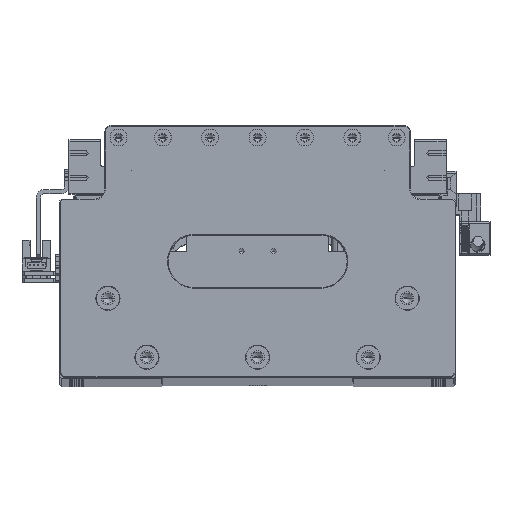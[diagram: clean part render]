
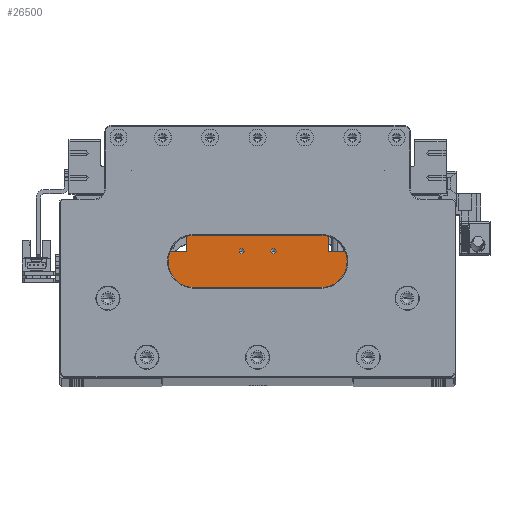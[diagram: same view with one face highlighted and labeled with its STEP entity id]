
A CAD part, top view. The second image highlights one B-rep face of the part: STEP entity #26500.
In plain terms, the highlighted planar face has unit normal (0, 0, 1).
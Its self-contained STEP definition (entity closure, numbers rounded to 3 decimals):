
#824 = AXIS2_PLACEMENT_3D ( 'NONE', #15569, #79194, #24776 ) ;
#1546 = EDGE_CURVE ( 'NONE', #80221, #26105, #6066, .T. ) ;
#2229 = ORIENTED_EDGE ( 'NONE', *, *, #35695, .T. ) ;
#2596 = CARTESIAN_POINT ( 'NONE',  ( -45., 0., 90. ) ) ;
#3475 = CARTESIAN_POINT ( 'NONE',  ( -45., -40., 90. ) ) ;
#3746 = AXIS2_PLACEMENT_3D ( 'NONE', #44631, #108120, #53740 ) ;
#5341 = ORIENTED_EDGE ( 'NONE', *, *, #117103, .T. ) ;
#6066 = LINE ( 'NONE', #12965, #48726 ) ;
#9433 = CARTESIAN_POINT ( 'NONE',  ( 0., -8., 90. ) ) ;
#10754 = LINE ( 'NONE', #3475, #56239 ) ;
#12511 = CARTESIAN_POINT ( 'NONE',  ( -6.25, -8., 90. ) ) ;
#12580 = DIRECTION ( 'NONE',  ( 1., 0., 0. ) ) ;
#12941 = VECTOR ( 'NONE', #22020, 1000. ) ;
#12965 = CARTESIAN_POINT ( 'NONE',  ( -33.5, 0., 90. ) ) ;
#14189 = CARTESIAN_POINT ( 'NONE',  ( 33.5, 0., 90. ) ) ;
#15569 = CARTESIAN_POINT ( 'NONE',  ( 7.5, -8., 90. ) ) ;
#17115 = PLANE ( 'NONE',  #62118 ) ;
#18925 = DIRECTION ( 'NONE',  ( -1., 0., 0. ) ) ;
#20332 = FACE_BOUND ( 'NONE', #37631, .T. ) ;
#20833 = ORIENTED_EDGE ( 'NONE', *, *, #52394, .T. ) ;
#22020 = DIRECTION ( 'NONE',  ( -1., 0., 0. ) ) ;
#23032 = VERTEX_POINT ( 'NONE', #30632 ) ;
#23194 = FACE_OUTER_BOUND ( 'NONE', #95689, .T. ) ;
#24278 = VERTEX_POINT ( 'NONE', #72954 ) ;
#24776 = DIRECTION ( 'NONE',  ( 1., 0., 0. ) ) ;
#26105 = VERTEX_POINT ( 'NONE', #45908 ) ;
#26361 = ORIENTED_EDGE ( 'NONE', *, *, #88788, .T. ) ;
#26500 = ADVANCED_FACE ( 'NONE', ( #23194, #92891, #20332 ), #17115, .T. ) ;
#27139 = ORIENTED_EDGE ( 'NONE', *, *, #57440, .T. ) ;
#30160 = VECTOR ( 'NONE', #48279, 1000. ) ;
#30163 = EDGE_CURVE ( 'NONE', #80478, #81448, #62438, .T. ) ;
#30610 = CARTESIAN_POINT ( 'NONE',  ( -45., -8., 90. ) ) ;
#30632 = CARTESIAN_POINT ( 'NONE',  ( 8.75, -8., 90. ) ) ;
#30961 = LINE ( 'NONE', #9433, #70651 ) ;
#31504 = ORIENTED_EDGE ( 'NONE', *, *, #92966, .T. ) ;
#33352 = VERTEX_POINT ( 'NONE', #56632 ) ;
#34322 = CARTESIAN_POINT ( 'NONE',  ( -7.5, -8., 90. ) ) ;
#35695 = EDGE_CURVE ( 'NONE', #23032, #90229, #104358, .T. ) ;
#36375 = DIRECTION ( 'NONE',  ( 0., 0., -1. ) ) ;
#36690 = ORIENTED_EDGE ( 'NONE', *, *, #55358, .T. ) ;
#37184 = LINE ( 'NONE', #112598, #12941 ) ;
#37631 = EDGE_LOOP ( 'NONE', ( #61186, #60130 ) ) ;
#41636 = VECTOR ( 'NONE', #112253, 1000. ) ;
#41806 = CARTESIAN_POINT ( 'NONE',  ( -33.5, -0.2, 90. ) ) ;
#43464 = DIRECTION ( 'NONE',  ( 1., 0., 0. ) ) ;
#44355 = CARTESIAN_POINT ( 'NONE',  ( 44.8, 0., 90. ) ) ;
#44631 = CARTESIAN_POINT ( 'NONE',  ( 7.5, -8., 90. ) ) ;
#45208 = VECTOR ( 'NONE', #87334, 1000. ) ;
#45805 = DIRECTION ( 'NONE',  ( 0., 0., 1. ) ) ;
#45908 = CARTESIAN_POINT ( 'NONE',  ( -33.5, -8., 90. ) ) ;
#48017 = CARTESIAN_POINT ( 'NONE',  ( 44.8, -8., 90. ) ) ;
#48279 = DIRECTION ( 'NONE',  ( 0., -1., 0. ) ) ;
#48726 = VECTOR ( 'NONE', #76576, 1000. ) ;
#51640 = VERTEX_POINT ( 'NONE', #79828 ) ;
#52394 = EDGE_CURVE ( 'NONE', #24278, #88127, #58470, .T. ) ;
#53493 = DIRECTION ( 'NONE',  ( 0., 1., 0. ) ) ;
#53740 = DIRECTION ( 'NONE',  ( 1., 0., 0. ) ) ;
#54354 = AXIS2_PLACEMENT_3D ( 'NONE', #90743, #36375, #99838 ) ;
#55358 = EDGE_CURVE ( 'NONE', #26105, #56880, #30961, .T. ) ;
#56239 = VECTOR ( 'NONE', #12580, 1000. ) ;
#56632 = CARTESIAN_POINT ( 'NONE',  ( 33.5, -8., 90. ) ) ;
#56880 = VERTEX_POINT ( 'NONE', #30610 ) ;
#57274 = CIRCLE ( 'NONE', #70637, 1.25 ) ;
#57440 = EDGE_CURVE ( 'NONE', #66204, #24278, #10754, .T. ) ;
#58470 = LINE ( 'NONE', #44355, #106737 ) ;
#60130 = ORIENTED_EDGE ( 'NONE', *, *, #30163, .T. ) ;
#61186 = ORIENTED_EDGE ( 'NONE', *, *, #117434, .T. ) ;
#61307 = ORIENTED_EDGE ( 'NONE', *, *, #1546, .T. ) ;
#62118 = AXIS2_PLACEMENT_3D ( 'NONE', #63255, #45805, #109298 ) ;
#62438 = CIRCLE ( 'NONE', #54354, 1.25 ) ;
#63161 = CARTESIAN_POINT ( 'NONE',  ( -8.75, -8., 90. ) ) ;
#63255 = CARTESIAN_POINT ( 'NONE',  ( 0., 0., 90. ) ) ;
#65768 = LINE ( 'NONE', #74529, #41636 ) ;
#66204 = VERTEX_POINT ( 'NONE', #110720 ) ;
#69324 = LINE ( 'NONE', #14189, #45208 ) ;
#70637 = AXIS2_PLACEMENT_3D ( 'NONE', #34322, #97852, #43464 ) ;
#70651 = VECTOR ( 'NONE', #18925, 1000. ) ;
#72954 = CARTESIAN_POINT ( 'NONE',  ( 44.8, -40., 90. ) ) ;
#74529 = CARTESIAN_POINT ( 'NONE',  ( 0., -8., 90. ) ) ;
#74535 = EDGE_CURVE ( 'NONE', #33352, #51640, #69324, .T. ) ;
#76576 = DIRECTION ( 'NONE',  ( 0., -1., 0. ) ) ;
#79194 = DIRECTION ( 'NONE',  ( 0., 0., -1. ) ) ;
#79828 = CARTESIAN_POINT ( 'NONE',  ( 33.5, -0.2, 90. ) ) ;
#80221 = VERTEX_POINT ( 'NONE', #41806 ) ;
#80478 = VERTEX_POINT ( 'NONE', #63161 ) ;
#81448 = VERTEX_POINT ( 'NONE', #12511 ) ;
#81659 = EDGE_CURVE ( 'NONE', #90229, #23032, #103648, .T. ) ;
#87334 = DIRECTION ( 'NONE',  ( 0., 1., 0. ) ) ;
#88127 = VERTEX_POINT ( 'NONE', #48017 ) ;
#88788 = EDGE_CURVE ( 'NONE', #88127, #33352, #65768, .T. ) ;
#90229 = VERTEX_POINT ( 'NONE', #97213 ) ;
#90743 = CARTESIAN_POINT ( 'NONE',  ( -7.5, -8., 90. ) ) ;
#92891 = FACE_BOUND ( 'NONE', #109885, .T. ) ;
#92966 = EDGE_CURVE ( 'NONE', #51640, #80221, #37184, .T. ) ;
#95689 = EDGE_LOOP ( 'NONE', ( #36690, #5341, #27139, #20833, #26361, #114712, #31504, #61307 ) ) ;
#97213 = CARTESIAN_POINT ( 'NONE',  ( 6.25, -8., 90. ) ) ;
#97852 = DIRECTION ( 'NONE',  ( 0., 0., -1. ) ) ;
#99838 = DIRECTION ( 'NONE',  ( 1., 0., 0. ) ) ;
#102597 = LINE ( 'NONE', #2596, #30160 ) ;
#103648 = CIRCLE ( 'NONE', #824, 1.25 ) ;
#104358 = CIRCLE ( 'NONE', #3746, 1.25 ) ;
#106737 = VECTOR ( 'NONE', #53493, 1000. ) ;
#108120 = DIRECTION ( 'NONE',  ( 0., 0., -1. ) ) ;
#109298 = DIRECTION ( 'NONE',  ( 1., 0., 0. ) ) ;
#109679 = ORIENTED_EDGE ( 'NONE', *, *, #81659, .T. ) ;
#109885 = EDGE_LOOP ( 'NONE', ( #2229, #109679 ) ) ;
#110720 = CARTESIAN_POINT ( 'NONE',  ( -45., -40., 90. ) ) ;
#112253 = DIRECTION ( 'NONE',  ( -1., 0., 0. ) ) ;
#112598 = CARTESIAN_POINT ( 'NONE',  ( 0., -0.2, 90. ) ) ;
#114712 = ORIENTED_EDGE ( 'NONE', *, *, #74535, .T. ) ;
#117103 = EDGE_CURVE ( 'NONE', #56880, #66204, #102597, .T. ) ;
#117434 = EDGE_CURVE ( 'NONE', #81448, #80478, #57274, .T. ) ;
